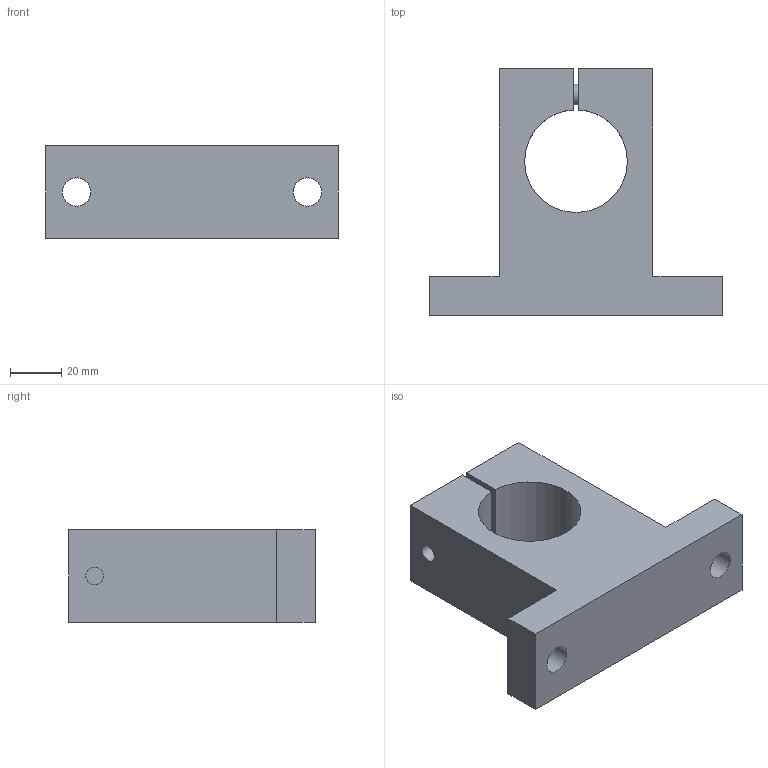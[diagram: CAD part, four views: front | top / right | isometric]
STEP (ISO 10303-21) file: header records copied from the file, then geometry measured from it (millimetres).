
FILE_DESCRIPTION(('STEP AP203'),'1');
FILE_NAME('//192.168.1.1/share/s-4 技術開発/s-4-14_個人別フォルダ/橋詰/09_CAD_DATA/3D/HP用/3Ｄモデル/SN-A/SN-40A.step','2021-09-16T02:47:02',(' '),(' '),'Spatial InterOp 3D',' ',' ');
FILE_SCHEMA(('CONFIG_CONTROL_DESIGN'));
Length unit declared in the file: millimetre
Products named in the file (2): 1; 2
Bounding box: 114 x 96 x 36 mm (x, y, z)
Volume: 186561.2 mm3; surface area: 34915.1 mm2
Topology: 2 solids, 2 shells, 34 faces, 82 edges, 55 vertices
Faces by surface type: plane 24, cylinder 9, cone 1
Full cylindrical faces by diameter (mm): 6.75 x1, 8 x2, 9 x1, 11 x2, 13 x1, 14 x1
Entity records: 1054 total; most frequent: CARTESIAN_POINT 191, DIRECTION 158, ORIENTED_EDGE 140, EDGE_CURVE 70, EDGE_LOOP 54, AXIS2_PLACEMENT_3D 53, VERTEX_POINT 52, LINE 52
